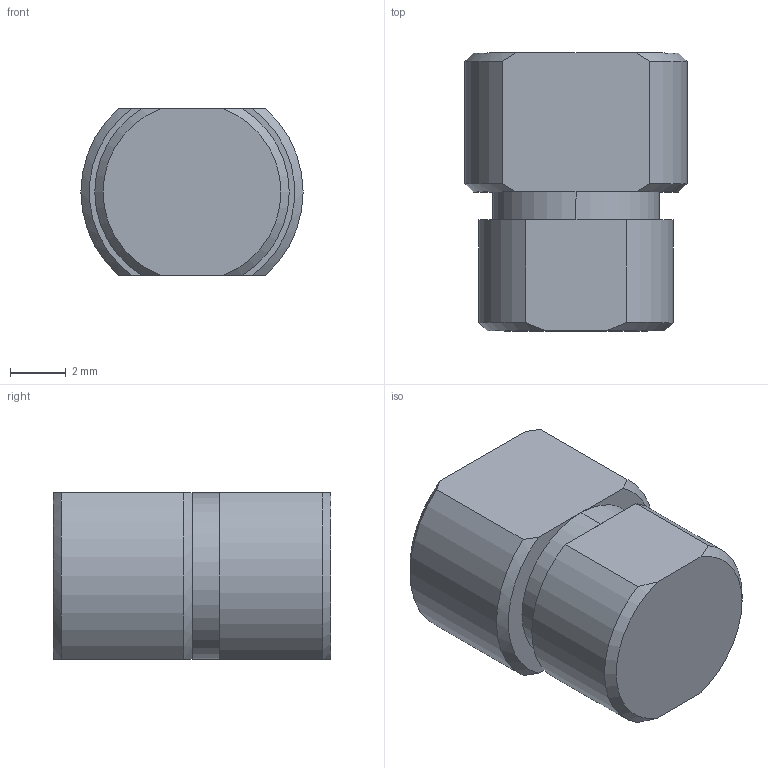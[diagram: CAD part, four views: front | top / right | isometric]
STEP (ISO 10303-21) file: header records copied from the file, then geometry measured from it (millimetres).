
FILE_DESCRIPTION (( 'STEP AP203' ), '1' );
FILE_NAME ('XG11-001-2.STEP', '2025-07-04T06:09:34', ( '微软用户' ), ( '微软中国' ), 'SwSTEP 2.0', 'SolidWorks 2024', '' );
FILE_SCHEMA (( 'CONFIG_CONTROL_DESIGN' ));
Length unit declared in the file: millimetre
Products named in the file (1): XG11-001-2
Bounding box: 8 x 10 x 6 mm (x, y, z)
Volume: 385.6 mm3; surface area: 319.5 mm2
Topology: 1 solids, 1 shells, 22 faces, 52 edges, 32 vertices
Faces by surface type: plane 10, cylinder 6, cone 6
Entity records: 719 total; most frequent: CARTESIAN_POINT 143, ORIENTED_EDGE 104, DIRECTION 104, EDGE_CURVE 52, AXIS2_PLACEMENT_3D 41, VERTEX_POINT 32, EDGE_LOOP 22, FACE_OUTER_BOUND 22
